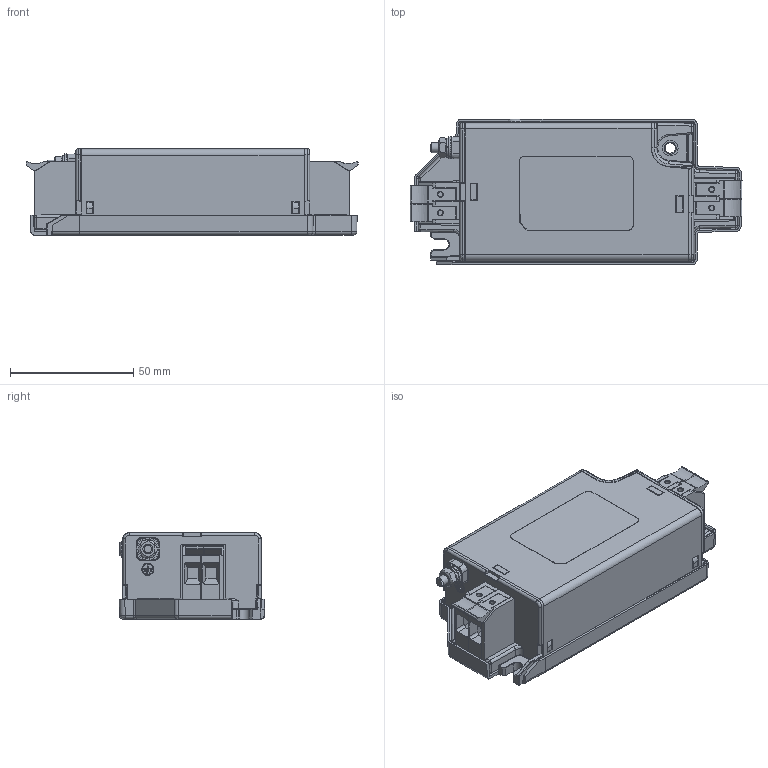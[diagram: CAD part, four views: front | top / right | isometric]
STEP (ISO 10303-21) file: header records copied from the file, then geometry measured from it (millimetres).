
FILE_DESCRIPTION(/* description */ (''),/* implementation_level */ '2;1');
FILE_NAME(/* name */ 'C:\Users\Christian.Ackermann\OneDrive - Schaffner EMV AG\Desktop\UMA_customerSTEP\FN250x-xx-103.stp',/* time_stamp */ '2021-08-24T09:39:41+02:00',/* author */ ('Christian.Ackermann'),/* organization */ (''),/* preprocessor_version */ 'ST-DEVELOPER v18.1',/* originating_system */ 'Autodesk Inventor 2020',/* authorisation */ '');
FILE_SCHEMA (('AUTOMOTIVE_DESIGN { 1 0 10303 214 3 1 1 }'));
Products named in the file (1): FN250x-xx-103
Bounding box: 134.51 x 59 x 35.06 mm (x, y, z)
Volume: 195948.3 mm3; surface area: 46209.6 mm2
Topology: 5 solids, 5 shells, 2013 faces, 5127 edges, 3149 vertices
Faces by surface type: plane 876, cylinder 724, bspline 282, sphere 75, torus 34, cone 22
Full cylindrical faces by diameter (mm): 0.8 x24, 2 x5, 2.2 x2, 2.8 x1, 4 x2, 4.2 x1, 4.3 x1, 6.111 x1, 6.4 x2, 6.5 x1, 8.39 x2, 8.74 x3, 9 x1
Entity records: 69010 total; most frequent: CARTESIAN_POINT 18151, ORIENTED_EDGE 10224, DIRECTION 10216, EDGE_CURVE 5112, AXIS2_PLACEMENT_3D 3578, VERTEX_POINT 3149, LINE 3060, VECTOR 3060
